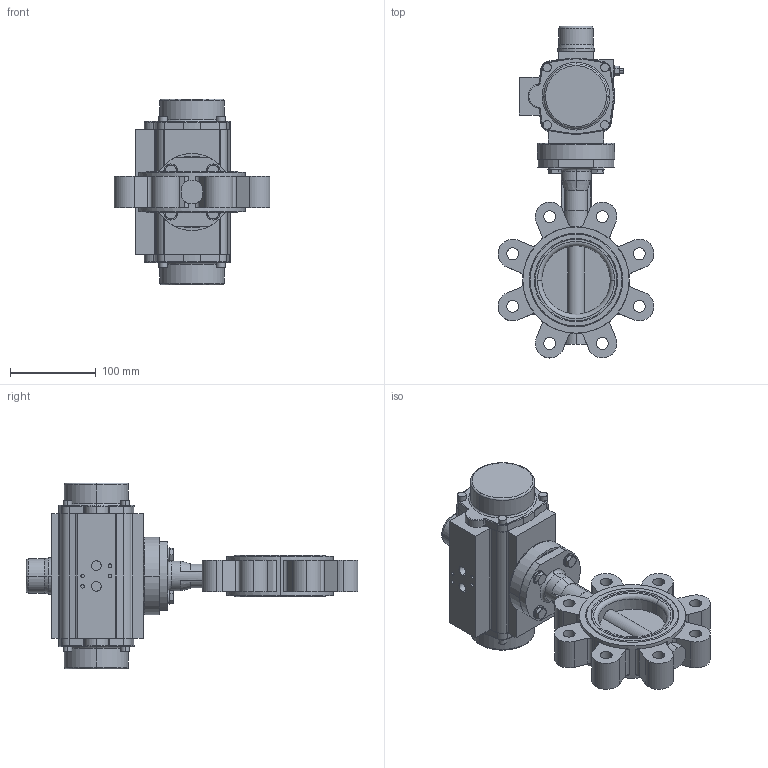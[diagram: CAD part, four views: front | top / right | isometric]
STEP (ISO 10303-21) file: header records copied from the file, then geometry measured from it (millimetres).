
FILE_DESCRIPTION (( 'STEP AP214' ), '1' );
FILE_NAME ('67345.step', '2020-10-23T12:38:01', ( '' ), ( '' ), 'SwSTEP 2.0', 'SolidWorks 2019', '' );
FILE_SCHEMA (( 'AUTOMOTIVE_DESIGN' ));
Length unit declared in the file: millimetre
Products named in the file (8): TL20-0080_M01; 67335_15x15x2 - L=18; U-Scheibe DIN 125 A_M8; 67345; SR0080-V17_02; Achtkantreduktion 17-11 mm; Flanschadapter F07-F05; 6kt-Schr DIN 933_M8x45
Assembly tree (13 placements, depth 2):
  67345
    TL20-0080_M01
    SR0080-V17_02
    U-Scheibe DIN 125 A_M8  x4
    6kt-Schr DIN 933_M8x45  x4
    Achtkantreduktion 17-11 mm
    Flanschadapter F07-F05
    67335_15x15x2 - L=18
Bounding box: 181.8 x 387.41 x 217 mm (x, y, z)
Volume: 2605762.1 mm3; surface area: 273936.6 mm2
Topology: 15 solids, 15 shells, 835 faces, 2101 edges, 1351 vertices
Faces by surface type: plane 374, cylinder 353, cone 52, torus 46, bspline 10
Entity records: 26017 total; most frequent: CARTESIAN_POINT 4779, DIRECTION 4186, ORIENTED_EDGE 3794, EDGE_CURVE 1897, AXIS2_PLACEMENT_3D 1616, VERTEX_POINT 1231, LINE 954, VECTOR 954
